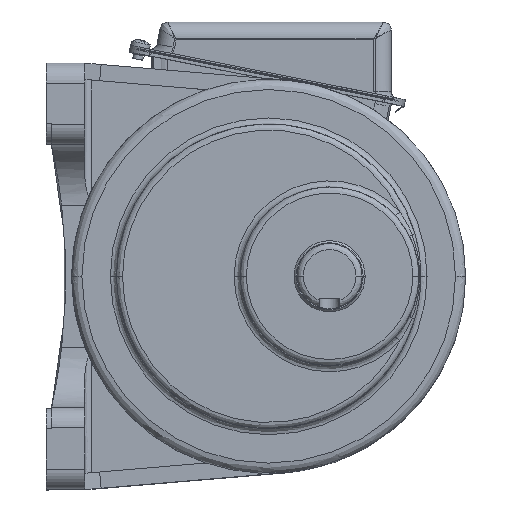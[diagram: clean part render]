
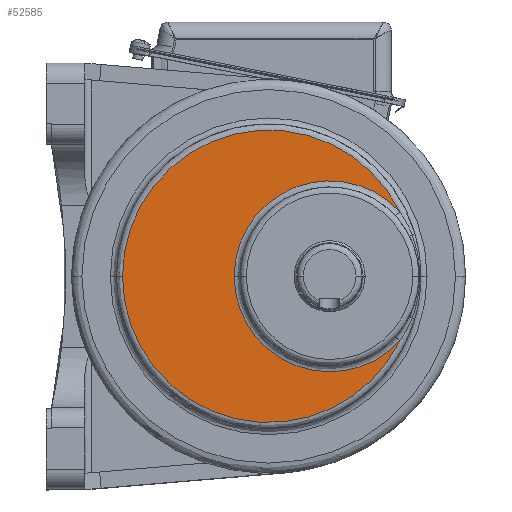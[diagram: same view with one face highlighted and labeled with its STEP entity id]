
A CAD part, top view. The second image highlights one B-rep face of the part: STEP entity #52585.
In plain terms, the highlighted planar face has unit normal (0, 0, 1) as drawn and (0, 1, 0) by its records, which use the part's own axes.
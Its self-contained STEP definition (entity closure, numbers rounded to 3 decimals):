
#10524 = DIRECTION ( 'NONE',  ( 0., 0., 1. ) ) ;
#10525 = DIRECTION ( 'NONE',  ( 0., 1., 0. ) ) ;
#10526 = CARTESIAN_POINT ( 'NONE',  ( 78., 0., -48.063 ) ) ;
#10528 = AXIS2_PLACEMENT_3D ( 'NONE', #10526, #10525, #10524 ) ;
#10529 = PLANE ( 'NONE',  #10528 ) ;
#10537 = FACE_OUTER_BOUND ( 'NONE', #50944, .T. ) ;
#15180 = DIRECTION ( 'NONE',  ( 0., 0., 1. ) ) ;
#15182 = AXIS2_PLACEMENT_3D ( 'NONE', #15188, #15282, #15180 ) ;
#15184 = CIRCLE ( 'NONE', #15182, 72. ) ;
#15188 = CARTESIAN_POINT ( 'NONE',  ( 0., 0., 30. ) ) ;
#15250 = CARTESIAN_POINT ( 'NONE',  ( 31.828, 0., -34.583 ) ) ;
#15252 = CARTESIAN_POINT ( 'NONE',  ( 0., 0., 102. ) ) ;
#15282 = DIRECTION ( 'NONE',  ( 0., 1., 0. ) ) ;
#15561 = DIRECTION ( 'NONE',  ( 0., 0., 1. ) ) ;
#15563 = DIRECTION ( 'NONE',  ( 0., -1., 0. ) ) ;
#15565 = CARTESIAN_POINT ( 'NONE',  ( 0., 0., 0. ) ) ;
#15567 = AXIS2_PLACEMENT_3D ( 'NONE', #15565, #15563, #15561 ) ;
#15568 = CIRCLE ( 'NONE', #15567, 47. ) ;
#15572 = CARTESIAN_POINT ( 'NONE',  ( 0., 0., 47. ) ) ;
#20562 = DIRECTION ( 'NONE',  ( 0., 0., 1. ) ) ;
#20563 = DIRECTION ( 'NONE',  ( 0., 1., 0. ) ) ;
#20565 = AXIS2_PLACEMENT_3D ( 'NONE', #20666, #20563, #20562 ) ;
#20567 = CIRCLE ( 'NONE', #20565, 72. ) ;
#20666 = CARTESIAN_POINT ( 'NONE',  ( 0., 0., 30. ) ) ;
#20713 = CARTESIAN_POINT ( 'NONE',  ( 0., 0., 0. ) ) ;
#20769 = DIRECTION ( 'NONE',  ( 0., 0., 1. ) ) ;
#20771 = DIRECTION ( 'NONE',  ( 0., -1., 0. ) ) ;
#20773 = AXIS2_PLACEMENT_3D ( 'NONE', #20713, #20771, #20769 ) ;
#20775 = CIRCLE ( 'NONE', #20773, 47. ) ;
#20949 = CARTESIAN_POINT ( 'NONE',  ( -31.828, 0., -34.583 ) ) ;
#49887 = ORIENTED_EDGE ( 'NONE', *, *, #53111, .T. ) ;
#50013 = ORIENTED_EDGE ( 'NONE', *, *, #53867, .T. ) ;
#50944 = EDGE_LOOP ( 'NONE', ( #56413, #56589, #49887, #50013 ) ) ;
#52585 = ADVANCED_FACE ( 'NONE', ( #10537 ), #10529, .T. ) ;
#53056 = EDGE_CURVE ( 'NONE', #53057, #53058, #15184, .T. ) ;
#53057 = VERTEX_POINT ( 'NONE', #15252 ) ;
#53058 = VERTEX_POINT ( 'NONE', #15250 ) ;
#53109 = VERTEX_POINT ( 'NONE', #15572 ) ;
#53111 = EDGE_CURVE ( 'NONE', #53058, #53109, #15568, .T. ) ;
#53856 = EDGE_CURVE ( 'NONE', #53879, #53057, #20567, .T. ) ;
#53867 = EDGE_CURVE ( 'NONE', #53109, #53879, #20775, .T. ) ;
#53879 = VERTEX_POINT ( 'NONE', #20949 ) ;
#56413 = ORIENTED_EDGE ( 'NONE', *, *, #53856, .T. ) ;
#56589 = ORIENTED_EDGE ( 'NONE', *, *, #53056, .T. ) ;
